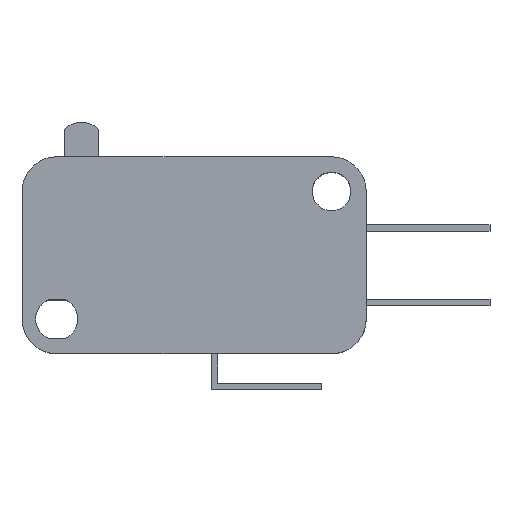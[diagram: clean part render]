
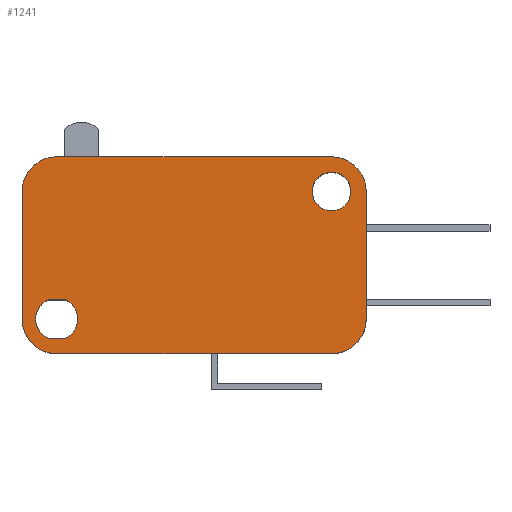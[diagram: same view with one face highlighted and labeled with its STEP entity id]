
A CAD part, top view. The second image highlights one B-rep face of the part: STEP entity #1241.
In plain terms, the highlighted planar face has unit normal (0, 0, 1).
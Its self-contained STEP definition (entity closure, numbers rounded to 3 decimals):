
#13 = CIRCLE ( 'NONE', #14, 1.55 ) ;
#14 = AXIS2_PLACEMENT_3D ( 'NONE', #15, #16, #17 ) ;
#15 = CARTESIAN_POINT ( 'NONE',  ( 0., 0., 5.15 ) ) ;
#16 = DIRECTION ( 'NONE',  ( 0., 0., 1. ) ) ;
#17 = DIRECTION ( 'NONE',  ( 1., 0., 0. ) ) ;
#22 = LINE ( 'NONE', #23, #24 ) ;
#23 = CARTESIAN_POINT ( 'NONE',  ( 2.8, 2.8, 5.15 ) ) ;
#24 = VECTOR ( 'NONE', #25, 1000. ) ;
#25 = DIRECTION ( 'NONE',  ( 0., 1., 0. ) ) ;
#27 = FACE_BOUND ( 'NONE', #461, .T. ) ;
#28 = FACE_BOUND ( 'NONE', #1158, .T. ) ;
#29 = FACE_OUTER_BOUND ( 'NONE', #1145, .T. ) ;
#30 = PLANE ( 'NONE',  #31 ) ;
#31 = AXIS2_PLACEMENT_3D ( 'NONE', #32, #33, #34 ) ;
#32 = CARTESIAN_POINT ( 'NONE',  ( -25., 2.8, 5.15 ) ) ;
#33 = DIRECTION ( 'NONE',  ( 0., 0., 1. ) ) ;
#34 = DIRECTION ( 'NONE',  ( 1., 0., 0. ) ) ;
#40 = CARTESIAN_POINT ( 'NONE',  ( -21.502, -8.75, 5.15 ) ) ;
#57 = LINE ( 'NONE', #58, #59 ) ;
#58 = CARTESIAN_POINT ( 'NONE',  ( -25., -13.1, 5.15 ) ) ;
#59 = VECTOR ( 'NONE', #60, 1000. ) ;
#60 = DIRECTION ( 'NONE',  ( 1., 0., 0. ) ) ;
#82 = LINE ( 'NONE', #83, #84 ) ;
#83 = CARTESIAN_POINT ( 'NONE',  ( -22.898, -11.85, 5.15 ) ) ;
#84 = VECTOR ( 'NONE', #85, 1000. ) ;
#85 = DIRECTION ( 'NONE',  ( 1., 0., 0. ) ) ;
#114 = CARTESIAN_POINT ( 'NONE',  ( 2.8, 0., 5.15 ) ) ;
#126 = CARTESIAN_POINT ( 'NONE',  ( 2.8, -10.3, 5.15 ) ) ;
#151 = ORIENTED_EDGE ( 'NONE', *, *, #1594, .T. ) ;
#152 = EDGE_CURVE ( 'NONE', #1339, #1314, #1463, .T. ) ;
#172 = EDGE_CURVE ( 'NONE', #1246, #1182, #1482, .T. ) ;
#220 = CIRCLE ( 'NONE', #221, 1.55 ) ;
#221 = AXIS2_PLACEMENT_3D ( 'NONE', #222, #223, #224 ) ;
#222 = CARTESIAN_POINT ( 'NONE',  ( 0., 0., 5.15 ) ) ;
#223 = DIRECTION ( 'NONE',  ( 0., 0., 1. ) ) ;
#224 = DIRECTION ( 'NONE',  ( 1., 0., 0. ) ) ;
#233 = CIRCLE ( 'NONE', #234, 1.7 ) ;
#234 = AXIS2_PLACEMENT_3D ( 'NONE', #235, #236, #237 ) ;
#235 = CARTESIAN_POINT ( 'NONE',  ( -22.2, -10.3, 5.15 ) ) ;
#236 = DIRECTION ( 'NONE',  ( 0., 0., 1. ) ) ;
#237 = DIRECTION ( 'NONE',  ( 1., 0., 0. ) ) ;
#238 = CARTESIAN_POINT ( 'NONE',  ( -22.2, -13.1, 5.15 ) ) ;
#272 = ORIENTED_EDGE ( 'NONE', *, *, #1457, .T. ) ;
#284 = CIRCLE ( 'NONE', #285, 1.7 ) ;
#285 = AXIS2_PLACEMENT_3D ( 'NONE', #286, #287, #288 ) ;
#286 = CARTESIAN_POINT ( 'NONE',  ( -22.2, -10.3, 5.15 ) ) ;
#287 = DIRECTION ( 'NONE',  ( 0., 0., 1. ) ) ;
#288 = DIRECTION ( 'NONE',  ( 1., 0., 0. ) ) ;
#315 = CARTESIAN_POINT ( 'NONE',  ( -22.898, -11.85, 5.15 ) ) ;
#316 = CARTESIAN_POINT ( 'NONE',  ( 0., -13.1, 5.15 ) ) ;
#374 = CARTESIAN_POINT ( 'NONE',  ( 0., 2.8, 5.15 ) ) ;
#397 = CARTESIAN_POINT ( 'NONE',  ( -1.55, 0., 5.15 ) ) ;
#405 = CIRCLE ( 'NONE', #406, 2.8 ) ;
#406 = AXIS2_PLACEMENT_3D ( 'NONE', #407, #408, #409 ) ;
#407 = CARTESIAN_POINT ( 'NONE',  ( -22.2, -10.3, 5.15 ) ) ;
#408 = DIRECTION ( 'NONE',  ( 0., 0., 1. ) ) ;
#409 = DIRECTION ( 'NONE',  ( 1., 0., 0. ) ) ;
#429 = CIRCLE ( 'NONE', #430, 2.8 ) ;
#430 = AXIS2_PLACEMENT_3D ( 'NONE', #431, #432, #433 ) ;
#431 = CARTESIAN_POINT ( 'NONE',  ( 0., -10.3, 5.15 ) ) ;
#432 = DIRECTION ( 'NONE',  ( 0., 0., 1. ) ) ;
#433 = DIRECTION ( 'NONE',  ( 1., 0., 0. ) ) ;
#439 = CARTESIAN_POINT ( 'NONE',  ( -25., 0., 5.15 ) ) ;
#453 = CARTESIAN_POINT ( 'NONE',  ( -22.898, -8.75, 5.15 ) ) ;
#461 = EDGE_LOOP ( 'NONE', ( #1287, #1247, #1607, #994, #1103 ) ) ;
#471 = CARTESIAN_POINT ( 'NONE',  ( -25., -10.3, 5.15 ) ) ;
#481 = CIRCLE ( 'NONE', #482, 2.8 ) ;
#482 = AXIS2_PLACEMENT_3D ( 'NONE', #483, #484, #485 ) ;
#483 = CARTESIAN_POINT ( 'NONE',  ( 0., 0., 5.15 ) ) ;
#484 = DIRECTION ( 'NONE',  ( 0., 0., 1. ) ) ;
#485 = DIRECTION ( 'NONE',  ( 1., 0., 0. ) ) ;
#513 = CARTESIAN_POINT ( 'NONE',  ( 1.55, 0., 5.15 ) ) ;
#514 = CARTESIAN_POINT ( 'NONE',  ( -21.502, -11.85, 5.15 ) ) ;
#532 = EDGE_CURVE ( 'NONE', #1153, #1298, #57, .T. ) ;
#552 = CARTESIAN_POINT ( 'NONE',  ( -22.2, 2.8, 5.15 ) ) ;
#703 = ORIENTED_EDGE ( 'NONE', *, *, #1239, .T. ) ;
#839 = VERTEX_POINT ( 'NONE', #315 ) ;
#960 = EDGE_CURVE ( 'NONE', #1045, #1153, #405, .T. ) ;
#994 = ORIENTED_EDGE ( 'NONE', *, *, #1159, .F. ) ;
#1011 = ORIENTED_EDGE ( 'NONE', *, *, #1398, .F. ) ;
#1045 = VERTEX_POINT ( 'NONE', #471 ) ;
#1080 = VERTEX_POINT ( 'NONE', #514 ) ;
#1083 = ORIENTED_EDGE ( 'NONE', *, *, #152, .T. ) ;
#1103 = ORIENTED_EDGE ( 'NONE', *, *, #1265, .F. ) ;
#1133 = VERTEX_POINT ( 'NONE', #126 ) ;
#1145 = EDGE_LOOP ( 'NONE', ( #151, #1083, #1193, #1344, #1196, #272, #703, #1408 ) ) ;
#1150 = EDGE_CURVE ( 'NONE', #1588, #1246, #233, .T. ) ;
#1153 = VERTEX_POINT ( 'NONE', #238 ) ;
#1158 = EDGE_LOOP ( 'NONE', ( #1586, #1011 ) ) ;
#1159 = EDGE_CURVE ( 'NONE', #1080, #1588, #284, .T. ) ;
#1182 = VERTEX_POINT ( 'NONE', #453 ) ;
#1193 = ORIENTED_EDGE ( 'NONE', *, *, #1597, .T. ) ;
#1196 = ORIENTED_EDGE ( 'NONE', *, *, #532, .T. ) ;
#1229 = EDGE_CURVE ( 'NONE', #1182, #839, #1560, .T. ) ;
#1237 = EDGE_CURVE ( 'NONE', #1324, #1638, #13, .T. ) ;
#1239 = EDGE_CURVE ( 'NONE', #1133, #1272, #22, .T. ) ;
#1241 = ADVANCED_FACE ( 'NONE', ( #27, #28, #29 ), #30, .T. ) ;
#1246 = VERTEX_POINT ( 'NONE', #40 ) ;
#1247 = ORIENTED_EDGE ( 'NONE', *, *, #172, .F. ) ;
#1265 = EDGE_CURVE ( 'NONE', #839, #1080, #82, .T. ) ;
#1272 = VERTEX_POINT ( 'NONE', #114 ) ;
#1287 = ORIENTED_EDGE ( 'NONE', *, *, #1229, .F. ) ;
#1298 = VERTEX_POINT ( 'NONE', #316 ) ;
#1305 = VERTEX_POINT ( 'NONE', #374 ) ;
#1314 = VERTEX_POINT ( 'NONE', #439 ) ;
#1319 = EDGE_CURVE ( 'NONE', #1272, #1305, #481, .T. ) ;
#1324 = VERTEX_POINT ( 'NONE', #513 ) ;
#1339 = VERTEX_POINT ( 'NONE', #552 ) ;
#1344 = ORIENTED_EDGE ( 'NONE', *, *, #960, .T. ) ;
#1398 = EDGE_CURVE ( 'NONE', #1638, #1324, #220, .T. ) ;
#1408 = ORIENTED_EDGE ( 'NONE', *, *, #1319, .T. ) ;
#1428 = CARTESIAN_POINT ( 'NONE',  ( -20.5, -10.3, 5.15 ) ) ;
#1457 = EDGE_CURVE ( 'NONE', #1298, #1133, #429, .T. ) ;
#1459 = LINE ( 'NONE', #1460, #1461 ) ;
#1460 = CARTESIAN_POINT ( 'NONE',  ( -25., 2.8, 5.15 ) ) ;
#1461 = VECTOR ( 'NONE', #1462, 1000. ) ;
#1462 = DIRECTION ( 'NONE',  ( -1., 0., 0. ) ) ;
#1463 = CIRCLE ( 'NONE', #1464, 2.8 ) ;
#1464 = AXIS2_PLACEMENT_3D ( 'NONE', #1465, #1466, #1467 ) ;
#1465 = CARTESIAN_POINT ( 'NONE',  ( -22.2, 0., 5.15 ) ) ;
#1466 = DIRECTION ( 'NONE',  ( 0., 0., 1. ) ) ;
#1467 = DIRECTION ( 'NONE',  ( 1., 0., 0. ) ) ;
#1482 = LINE ( 'NONE', #1483, #1484 ) ;
#1483 = CARTESIAN_POINT ( 'NONE',  ( -22.898, -8.75, 5.15 ) ) ;
#1484 = VECTOR ( 'NONE', #1485, 1000. ) ;
#1485 = DIRECTION ( 'NONE',  ( -1., 0., 0. ) ) ;
#1505 = LINE ( 'NONE', #1506, #1507 ) ;
#1506 = CARTESIAN_POINT ( 'NONE',  ( -25., 2.8, 5.15 ) ) ;
#1507 = VECTOR ( 'NONE', #1508, 1000. ) ;
#1508 = DIRECTION ( 'NONE',  ( 0., -1., 0. ) ) ;
#1560 = CIRCLE ( 'NONE', #1561, 1.7 ) ;
#1561 = AXIS2_PLACEMENT_3D ( 'NONE', #1562, #1563, #1564 ) ;
#1562 = CARTESIAN_POINT ( 'NONE',  ( -22.2, -10.3, 5.15 ) ) ;
#1563 = DIRECTION ( 'NONE',  ( 0., 0., 1. ) ) ;
#1564 = DIRECTION ( 'NONE',  ( 1., 0., 0. ) ) ;
#1586 = ORIENTED_EDGE ( 'NONE', *, *, #1237, .F. ) ;
#1588 = VERTEX_POINT ( 'NONE', #1428 ) ;
#1594 = EDGE_CURVE ( 'NONE', #1305, #1339, #1459, .T. ) ;
#1597 = EDGE_CURVE ( 'NONE', #1314, #1045, #1505, .T. ) ;
#1607 = ORIENTED_EDGE ( 'NONE', *, *, #1150, .F. ) ;
#1638 = VERTEX_POINT ( 'NONE', #397 ) ;
